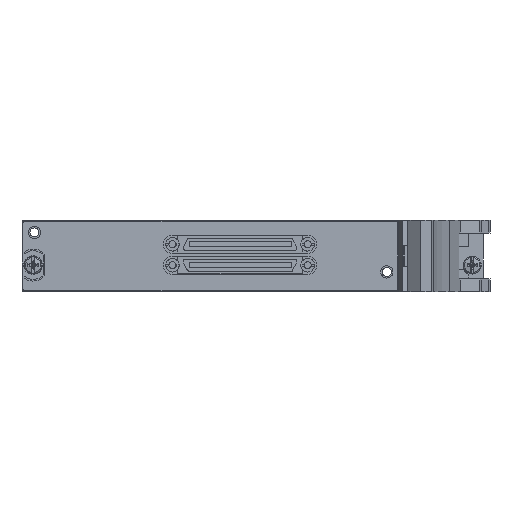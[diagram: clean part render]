
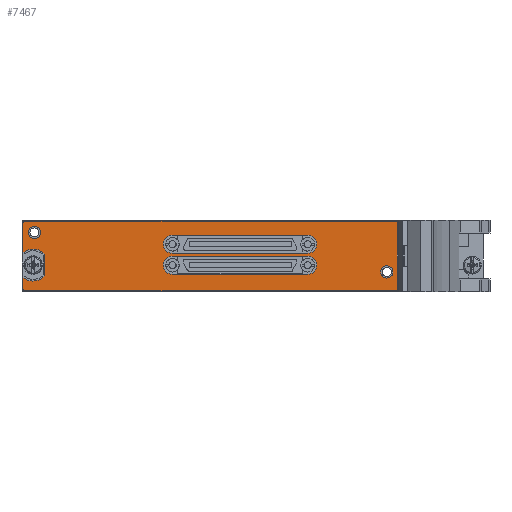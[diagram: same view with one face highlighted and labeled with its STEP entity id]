
A CAD part, left-side view. The second image highlights one B-rep face of the part: STEP entity #7467.
In plain terms, the highlighted planar face has unit normal (-1, 0, 0).
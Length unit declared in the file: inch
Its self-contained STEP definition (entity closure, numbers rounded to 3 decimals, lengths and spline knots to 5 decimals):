
#29=CARTESIAN_POINT('',(-0.618,4.27651,0.665));
#30=DIRECTION('',(-1.,0.,0.));
#31=DIRECTION('',(0.,0.,1.));
#32=AXIS2_PLACEMENT_3D('',#29,#30,#31);
#34=DIRECTION('',(0.,1.,0.));
#35=VECTOR('',#34,4.07);
#36=CARTESIAN_POINT('',(-0.618,0.20651,0.685));
#37=LINE('',#36,#35);
#38=CARTESIAN_POINT('',(-0.618,0.20651,0.665));
#39=DIRECTION('',(-1.,0.,0.));
#40=DIRECTION('',(0.,-1.,0.));
#41=AXIS2_PLACEMENT_3D('',#38,#39,#40);
#43=DIRECTION('',(0.,0.,1.));
#44=VECTOR('',#43,0.728);
#45=CARTESIAN_POINT('',(-0.618,0.18651,-0.063));
#46=LINE('',#45,#44);
#47=CARTESIAN_POINT('',(-0.618,0.20651,-0.063));
#48=DIRECTION('',(-1.,0.,0.));
#49=DIRECTION('',(0.,0.,-1.));
#50=AXIS2_PLACEMENT_3D('',#47,#48,#49);
#52=DIRECTION('',(0.,-1.,0.));
#53=VECTOR('',#52,4.07);
#54=CARTESIAN_POINT('',(-0.618,4.27651,-0.083));
#55=LINE('',#54,#53);
#56=CARTESIAN_POINT('',(-0.618,4.27651,-0.063));
#57=DIRECTION('',(-1.,0.,0.));
#58=DIRECTION('',(0.,1.,0.));
#59=AXIS2_PLACEMENT_3D('',#56,#57,#58);
#61=DIRECTION('',(0.,0.,-1.));
#62=VECTOR('',#61,0.12953);
#63=CARTESIAN_POINT('',(-0.618,4.29651,0.06653));
#64=LINE('',#63,#62);
#65=CARTESIAN_POINT('',(-0.618,4.18451,0.201));
#66=DIRECTION('',(1.,0.,0.));
#67=DIRECTION('',(0.,-0.737,-0.676));
#68=AXIS2_PLACEMENT_3D('',#65,#66,#67);
#70=DIRECTION('',(0.,0.,-1.));
#71=VECTOR('',#70,0.23651);
#72=CARTESIAN_POINT('',(-0.618,4.05551,0.31925));
#73=LINE('',#72,#71);
#74=CARTESIAN_POINT('',(-0.618,4.18451,0.201));
#75=DIRECTION('',(1.,0.,0.));
#76=DIRECTION('',(0.,0.64,0.768));
#77=AXIS2_PLACEMENT_3D('',#74,#75,#76);
#79=DIRECTION('',(0.,0.,-1.));
#80=VECTOR('',#79,0.32953);
#81=CARTESIAN_POINT('',(-0.618,4.29651,0.665));
#82=LINE('',#81,#80);
#83=CARTESIAN_POINT('',(-0.618,4.17024,0.56));
#84=DIRECTION('',(-1.,0.,0.));
#85=DIRECTION('',(0.,0.,1.));
#86=AXIS2_PLACEMENT_3D('',#83,#84,#85);
#88=CARTESIAN_POINT('',(-0.618,4.17024,0.56));
#89=DIRECTION('',(-1.,0.,0.));
#90=DIRECTION('',(0.,0.,-1.));
#91=AXIS2_PLACEMENT_3D('',#88,#89,#90);
#93=CARTESIAN_POINT('',(-0.618,0.30124,0.126));
#94=DIRECTION('',(-1.,0.,0.));
#95=DIRECTION('',(0.,0.,1.));
#96=AXIS2_PLACEMENT_3D('',#93,#94,#95);
#98=CARTESIAN_POINT('',(-0.618,0.30124,0.126));
#99=DIRECTION('',(-1.,0.,0.));
#100=DIRECTION('',(0.,0.,-1.));
#101=AXIS2_PLACEMENT_3D('',#98,#99,#100);
#103=CARTESIAN_POINT('',(-0.618,2.65451,0.4298));
#104=DIRECTION('',(-1.,0.,0.));
#105=DIRECTION('',(0.,0.,1.));
#106=AXIS2_PLACEMENT_3D('',#103,#104,#105);
#108=DIRECTION('',(0.,-1.,0.));
#109=VECTOR('',#108,1.484);
#110=CARTESIAN_POINT('',(-0.618,2.65451,0.3298));
#111=LINE('',#110,#109);
#112=CARTESIAN_POINT('',(-0.618,1.17051,0.4298));
#113=DIRECTION('',(-1.,0.,0.));
#114=DIRECTION('',(0.,0.,-1.));
#115=AXIS2_PLACEMENT_3D('',#112,#113,#114);
#117=DIRECTION('',(0.,1.,0.));
#118=VECTOR('',#117,1.484);
#119=CARTESIAN_POINT('',(-0.618,1.17051,0.5298));
#120=LINE('',#119,#118);
#121=CARTESIAN_POINT('',(-0.618,2.65451,0.1998));
#122=DIRECTION('',(-1.,0.,0.));
#123=DIRECTION('',(0.,0.,1.));
#124=AXIS2_PLACEMENT_3D('',#121,#122,#123);
#126=DIRECTION('',(0.,-1.,0.));
#127=VECTOR('',#126,1.484);
#128=CARTESIAN_POINT('',(-0.618,2.65451,0.0998));
#129=LINE('',#128,#127);
#130=CARTESIAN_POINT('',(-0.618,1.17051,0.1998));
#131=DIRECTION('',(-1.,0.,0.));
#132=DIRECTION('',(0.,0.,-1.));
#133=AXIS2_PLACEMENT_3D('',#130,#131,#132);
#135=DIRECTION('',(0.,1.,0.));
#136=VECTOR('',#135,1.484);
#137=CARTESIAN_POINT('',(-0.618,1.17051,0.2998));
#138=LINE('',#137,#136);
#7048=CARTESIAN_POINT('',(-0.618,4.27651,0.685));
#7049=CARTESIAN_POINT('',(-0.618,4.29651,0.665));
#7050=VERTEX_POINT('',#7048);
#7051=VERTEX_POINT('',#7049);
#7052=CARTESIAN_POINT('',(-0.618,4.29651,0.33547));
#7053=VERTEX_POINT('',#7052);
#7054=CARTESIAN_POINT('',(-0.618,4.05551,0.31925));
#7055=VERTEX_POINT('',#7054);
#7056=CARTESIAN_POINT('',(-0.618,4.05551,0.08275));
#7057=VERTEX_POINT('',#7056);
#7058=CARTESIAN_POINT('',(-0.618,4.29651,0.06653));
#7059=VERTEX_POINT('',#7058);
#7060=CARTESIAN_POINT('',(-0.618,4.29651,-0.063));
#7061=VERTEX_POINT('',#7060);
#7062=CARTESIAN_POINT('',(-0.618,4.27651,-0.083));
#7063=VERTEX_POINT('',#7062);
#7064=CARTESIAN_POINT('',(-0.618,0.20651,-0.083));
#7065=VERTEX_POINT('',#7064);
#7066=CARTESIAN_POINT('',(-0.618,0.18651,-0.063));
#7067=VERTEX_POINT('',#7066);
#7068=CARTESIAN_POINT('',(-0.618,0.18651,0.665));
#7069=VERTEX_POINT('',#7068);
#7070=CARTESIAN_POINT('',(-0.618,0.20651,0.685));
#7071=VERTEX_POINT('',#7070);
#7072=CARTESIAN_POINT('',(-0.618,4.17024,0.6275));
#7073=CARTESIAN_POINT('',(-0.618,4.17024,0.4925));
#7074=VERTEX_POINT('',#7072);
#7075=VERTEX_POINT('',#7073);
#7076=CARTESIAN_POINT('',(-0.618,0.30124,0.1935));
#7077=CARTESIAN_POINT('',(-0.618,0.30124,0.0585));
#7078=VERTEX_POINT('',#7076);
#7079=VERTEX_POINT('',#7077);
#7080=CARTESIAN_POINT('',(-0.618,2.65451,0.5298));
#7081=CARTESIAN_POINT('',(-0.618,2.65451,0.3298));
#7082=VERTEX_POINT('',#7080);
#7083=VERTEX_POINT('',#7081);
#7084=CARTESIAN_POINT('',(-0.618,1.17051,0.3298));
#7085=VERTEX_POINT('',#7084);
#7086=CARTESIAN_POINT('',(-0.618,1.17051,0.5298));
#7087=VERTEX_POINT('',#7086);
#7088=CARTESIAN_POINT('',(-0.618,2.65451,0.2998));
#7089=CARTESIAN_POINT('',(-0.618,2.65451,0.0998));
#7090=VERTEX_POINT('',#7088);
#7091=VERTEX_POINT('',#7089);
#7092=CARTESIAN_POINT('',(-0.618,1.17051,0.0998));
#7093=VERTEX_POINT('',#7092);
#7094=CARTESIAN_POINT('',(-0.618,1.17051,0.2998));
#7095=VERTEX_POINT('',#7094);
#7406=CARTESIAN_POINT('',(-0.618,4.18451,0.201));
#7407=DIRECTION('',(-1.,0.,0.));
#7408=DIRECTION('',(0.,0.,1.));
#7409=AXIS2_PLACEMENT_3D('',#7406,#7407,#7408);
#7410=PLANE('',#7409);
#7412=ORIENTED_EDGE('',*,*,#7411,.F.);
#7414=ORIENTED_EDGE('',*,*,#7413,.F.);
#7416=ORIENTED_EDGE('',*,*,#7415,.F.);
#7418=ORIENTED_EDGE('',*,*,#7417,.F.);
#7420=ORIENTED_EDGE('',*,*,#7419,.F.);
#7422=ORIENTED_EDGE('',*,*,#7421,.F.);
#7424=ORIENTED_EDGE('',*,*,#7423,.F.);
#7426=ORIENTED_EDGE('',*,*,#7425,.F.);
#7428=ORIENTED_EDGE('',*,*,#7427,.F.);
#7430=ORIENTED_EDGE('',*,*,#7429,.F.);
#7432=ORIENTED_EDGE('',*,*,#7431,.F.);
#7434=ORIENTED_EDGE('',*,*,#7433,.F.);
#7435=EDGE_LOOP('',(#7412,#7414,#7416,#7418,#7420,#7422,#7424,#7426,#7428,#7430,
#7432,#7434));
#7436=FACE_OUTER_BOUND('',#7435,.F.);
#7437=ORIENTED_EDGE('',*,*,#7400,.T.);
#7438=ORIENTED_EDGE('',*,*,#7369,.T.);
#7439=EDGE_LOOP('',(#7437,#7438));
#7440=FACE_BOUND('',#7439,.F.);
#7442=ORIENTED_EDGE('',*,*,#7441,.T.);
#7444=ORIENTED_EDGE('',*,*,#7443,.T.);
#7445=EDGE_LOOP('',(#7442,#7444));
#7446=FACE_BOUND('',#7445,.F.);
#7448=ORIENTED_EDGE('',*,*,#7447,.T.);
#7450=ORIENTED_EDGE('',*,*,#7449,.T.);
#7452=ORIENTED_EDGE('',*,*,#7451,.T.);
#7454=ORIENTED_EDGE('',*,*,#7453,.T.);
#7455=EDGE_LOOP('',(#7448,#7450,#7452,#7454));
#7456=FACE_BOUND('',#7455,.F.);
#7458=ORIENTED_EDGE('',*,*,#7457,.T.);
#7460=ORIENTED_EDGE('',*,*,#7459,.T.);
#7462=ORIENTED_EDGE('',*,*,#7461,.T.);
#7464=ORIENTED_EDGE('',*,*,#7463,.T.);
#7465=EDGE_LOOP('',(#7458,#7460,#7462,#7464));
#7466=FACE_BOUND('',#7465,.F.);
#7467=ADVANCED_FACE('',(#7436,#7440,#7446,#7456,#7466),#7410,.T.);
#33=CIRCLE('',#32,0.02);
#42=CIRCLE('',#41,0.02);
#51=CIRCLE('',#50,0.02);
#60=CIRCLE('',#59,0.02);
#69=CIRCLE('',#68,0.175);
#78=CIRCLE('',#77,0.175);
#87=CIRCLE('',#86,0.0675);
#92=CIRCLE('',#91,0.0675);
#97=CIRCLE('',#96,0.0675);
#102=CIRCLE('',#101,0.0675);
#107=CIRCLE('',#106,0.1);
#116=CIRCLE('',#115,0.1);
#125=CIRCLE('',#124,0.1);
#134=CIRCLE('',#133,0.1);
#7369=EDGE_CURVE('',#7075,#7074,#92,.T.);
#7400=EDGE_CURVE('',#7074,#7075,#87,.T.);
#7411=EDGE_CURVE('',#7050,#7051,#33,.T.);
#7413=EDGE_CURVE('',#7071,#7050,#37,.T.);
#7415=EDGE_CURVE('',#7069,#7071,#42,.T.);
#7417=EDGE_CURVE('',#7067,#7069,#46,.T.);
#7419=EDGE_CURVE('',#7065,#7067,#51,.T.);
#7421=EDGE_CURVE('',#7063,#7065,#55,.T.);
#7423=EDGE_CURVE('',#7061,#7063,#60,.T.);
#7425=EDGE_CURVE('',#7059,#7061,#64,.T.);
#7427=EDGE_CURVE('',#7057,#7059,#69,.T.);
#7429=EDGE_CURVE('',#7055,#7057,#73,.T.);
#7431=EDGE_CURVE('',#7053,#7055,#78,.T.);
#7433=EDGE_CURVE('',#7051,#7053,#82,.T.);
#7441=EDGE_CURVE('',#7078,#7079,#97,.T.);
#7443=EDGE_CURVE('',#7079,#7078,#102,.T.);
#7447=EDGE_CURVE('',#7082,#7083,#107,.T.);
#7449=EDGE_CURVE('',#7083,#7085,#111,.T.);
#7451=EDGE_CURVE('',#7085,#7087,#116,.T.);
#7453=EDGE_CURVE('',#7087,#7082,#120,.T.);
#7457=EDGE_CURVE('',#7090,#7091,#125,.T.);
#7459=EDGE_CURVE('',#7091,#7093,#129,.T.);
#7461=EDGE_CURVE('',#7093,#7095,#134,.T.);
#7463=EDGE_CURVE('',#7095,#7090,#138,.T.);
